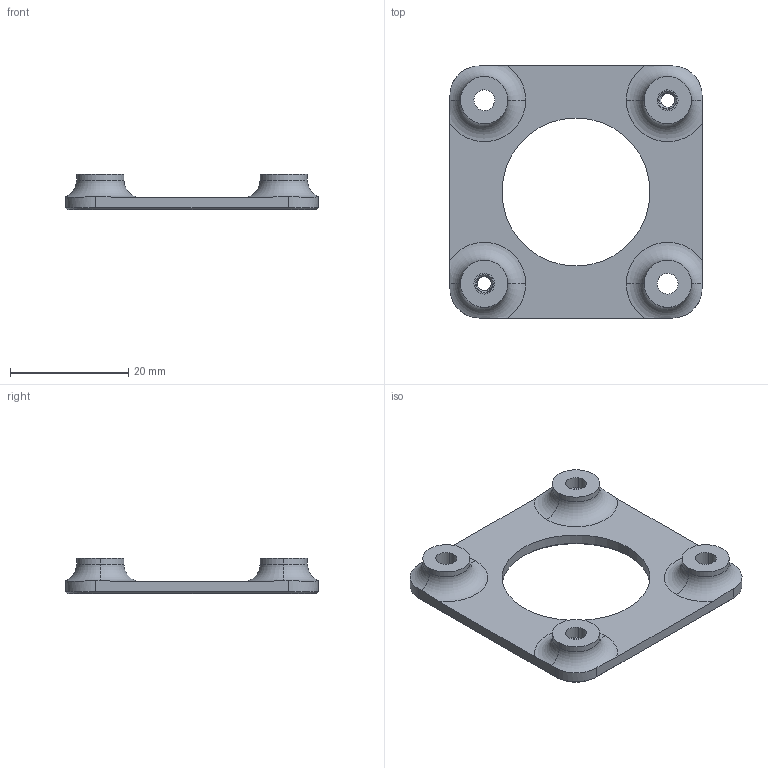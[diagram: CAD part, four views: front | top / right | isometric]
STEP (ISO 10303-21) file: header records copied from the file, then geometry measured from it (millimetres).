
FILE_DESCRIPTION(('CATIA V5 STEP Exchange'),'2;1');
FILE_NAME('C:\Users\loren\Desktop\BONUS_CLIP\COMMON PARTS\SUPPORTO_SCHEDA_Inserti.stp','2021-06-19T11:31:37+00:00',('none'),('none'),'CATIA Version 5 Release 20 SP 1 (IN-10)','CATIA V5 STEP AP214','none');
FILE_SCHEMA(('AUTOMOTIVE_DESIGN { 1 0 10303 214 1 1 1 1 }'));
Length unit declared in the file: millimetre
Products named in the file (1): Separador_PCB_Insertos
Bounding box: 42.6 x 42.6 x 6 mm (x, y, z)
Volume: 3397.8 mm3; surface area: 3885.7 mm2
Topology: 3 solids, 3 shells, 1000 faces, 2664 edges, 1680 vertices
Faces by surface type: bspline 706, cylinder 226, cone 32, plane 28, torus 8
Entity records: 30748 total; most frequent: CARTESIAN_POINT 14027, ORIENTED_EDGE 5328, EDGE_CURVE 2664, VERTEX_POINT 1680, DIRECTION 1220, EDGE_LOOP 1024, ADVANCED_FACE 1000, FACE_OUTER_BOUND 1000
